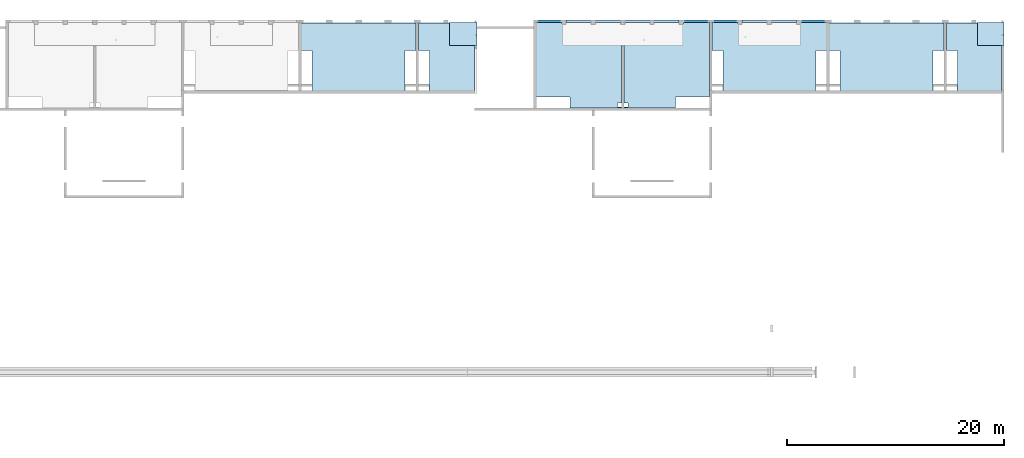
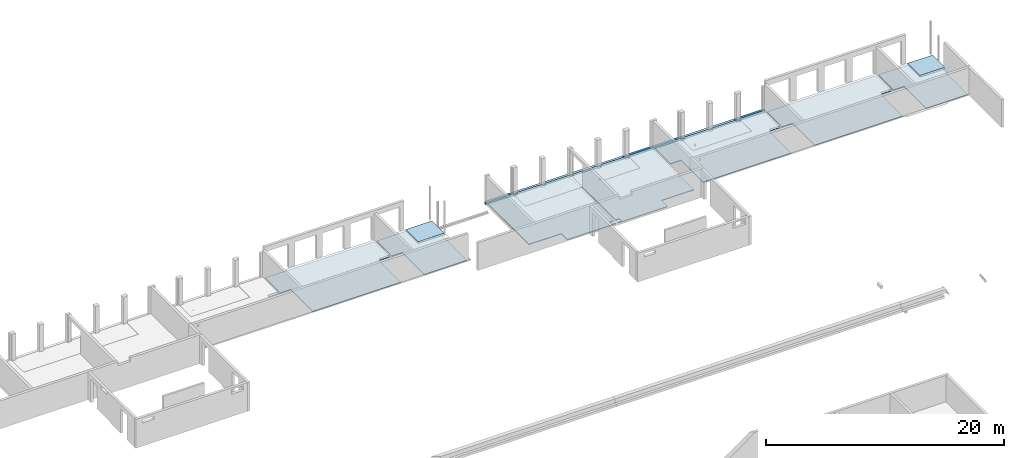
# One storey, part 13 of 22: 14 slabs, 3 openings.
"""IFC2X3 building model written with IfcOpenShell, lengths in millimetres."""

from ifc_helpers import new_model, entity, si_unit, converted_unit, derived_unit, direction, frame, frame_2d, origin, origin_2d_with_axis, place, context, subcontext, project, spatial, polyline, rectangle, circle, outline, extrude, material, layer, layer_set, layer_usage, element, save


model = new_model("IFC2X3")

# Units and contexts
model_context = context("Model", 3, precision=0.01, world=origin(), true_north=direction((6.12303176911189e-17, 1.0)))
body_context = subcontext(model_context, "Body", "Model", "MODEL_VIEW")
ifc_project = project(units=[si_unit("LENGTHUNIT", "METRE", prefix="MILLI"), si_unit("AREAUNIT", "SQUARE_METRE"), si_unit("VOLUMEUNIT", "CUBIC_METRE"), converted_unit("PLANEANGLEUNIT", "DEGREE", entity("IfcRatioMeasure", 0.0174532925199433), si_unit("PLANEANGLEUNIT", "RADIAN"), dimensions=[0, 0, 0, 0, 0, 0, 0]), si_unit("MASSUNIT", "GRAM", prefix="KILO"), derived_unit("MASSDENSITYUNIT", [(si_unit("MASSUNIT", "GRAM", prefix="KILO"), 1), (si_unit("LENGTHUNIT", "METRE"), -3)]), si_unit("TIMEUNIT", "SECOND"), si_unit("FREQUENCYUNIT", "HERTZ"), si_unit("THERMODYNAMICTEMPERATUREUNIT", "DEGREE_CELSIUS"), derived_unit("THERMALTRANSMITTANCEUNIT", [(si_unit("MASSUNIT", "GRAM", prefix="KILO"), 1), (si_unit("THERMODYNAMICTEMPERATUREUNIT", "KELVIN"), -1), (si_unit("TIMEUNIT", "SECOND"), -3)]), derived_unit("VOLUMETRICFLOWRATEUNIT", [(si_unit("LENGTHUNIT", "METRE"), 3), (si_unit("TIMEUNIT", "SECOND"), -1)]), si_unit("ELECTRICCURRENTUNIT", "AMPERE"), si_unit("ELECTRICVOLTAGEUNIT", "VOLT"), si_unit("POWERUNIT", "WATT"), si_unit("FORCEUNIT", "NEWTON", prefix="KILO"), si_unit("ILLUMINANCEUNIT", "LUX"), si_unit("LUMINOUSFLUXUNIT", "LUMEN"), si_unit("LUMINOUSINTENSITYUNIT", "CANDELA"), derived_unit("USERDEFINED", [(si_unit("MASSUNIT", "GRAM", prefix="KILO"), -1), (si_unit("LENGTHUNIT", "METRE"), -2), (si_unit("TIMEUNIT", "SECOND"), 3), (si_unit("LUMINOUSFLUXUNIT", "LUMEN"), 1)]), derived_unit("LINEARVELOCITYUNIT", [(si_unit("LENGTHUNIT", "METRE"), 1), (si_unit("TIMEUNIT", "SECOND"), -1)]), si_unit("PRESSUREUNIT", "PASCAL"), derived_unit("USERDEFINED", [(si_unit("LENGTHUNIT", "METRE"), -2), (si_unit("MASSUNIT", "GRAM", prefix="KILO"), 1), (si_unit("TIMEUNIT", "SECOND"), -2)])], contexts=[model_context])

# Site, building, storey
site_placement = place(None, origin())
site = spatial("IfcSite", under=ifc_project, at=site_placement, Name="Default", CompositionType="ELEMENT")
building_placement = place(site_placement, origin())
building = spatial("IfcBuilding", under=site, at=building_placement, Name="niet gebruiken", CompositionType="ELEMENT")
storey_placement = place(building_placement, frame((0.0, 0.0, 9630.0)))
storey = spatial("IfcBuildingStorey", under=building, at=storey_placement, Name="03 derde verdieping", CompositionType="ELEMENT", Elevation=9630.00000000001)

# Slabs
ifc_material_1 = material(Name="NLRS_f2_beton ihwg")
ifc_layer_1 = layer(ifc_material_1, 230.0)
ifc_layer_set_1 = layer_set([ifc_layer_1], Name="Floor:NLRS_23.21_FL_breedplaat d=50/230_schil apart_gen")
ifc_layer_usage_1 = layer_usage(ifc_layer_set_1, "AXIS3", "POSITIVE", 0.0)
slab_1_placement = place(storey_placement, frame((121745.0, 50926.0, -340.0)))
element("IfcSlab", 1, at=slab_1_placement, inside=storey, material=ifc_layer_usage_1, Name="Floor:NLRS_23.21_FL_breedplaat d=50/230_schil apart_gen", ObjectType="Floor:NLRS_23.21_FL_breedplaat d=50/230_schil apart_gen", PredefinedType="FLOOR", context=body_context, shape_type="SweptSolid", body=[
    extrude(rectangle(XDim=2079.99999999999, YDim=2455.00000000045, at=frame_2d((0.0, 0.0), x_axis=(0.0, 1.0))), frame((1227.50000000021, 1040.0, 230.0), z_axis=(0.0, 0.0, -1.0), x_axis=(-1.0, 0.0, 0.0)), (0.0, 0.0, 1.0), 230.0),
])
ifc_layer_usage_2 = layer_usage(ifc_layer_set_1, "AXIS3", "POSITIVE", 0.0)
slab_2_placement = place(storey_placement, frame((73145.0, 50926.0, -340.0)))
element("IfcSlab", 2, at=slab_2_placement, inside=storey, material=ifc_layer_usage_2, Name="Floor:NLRS_23.21_FL_breedplaat d=50/230_schil apart_gen", ObjectType="Floor:NLRS_23.21_FL_breedplaat d=50/230_schil apart_gen", PredefinedType="FLOOR", context=body_context, shape_type="SweptSolid", body=[
    extrude(rectangle(XDim=2080.00000000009, YDim=2555.00000000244, at=frame_2d((0.0, 0.0), x_axis=(0.0, 1.0))), frame((1277.50000000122, 1040.0, 230.0), z_axis=(0.0, 0.0, -1.0), x_axis=(-1.0, 0.0, 0.0)), (0.0, 0.0, 1.0), 230.0),
])
ifc_layer_2 = layer(ifc_material_1, 230.0)
ifc_layer_set_2 = layer_set([ifc_layer_2], Name="Floor:NLRS_23.21_FL_beton ihwg d=230_gen")
ifc_layer_usage_3 = layer_usage(ifc_layer_set_2, "AXIS3", "POSITIVE", 0.0)
slab_3_placement = place(storey_placement, frame((83905.0, 53006.0, -340.0)))
element("IfcSlab", 3, at=slab_3_placement, inside=storey, material=ifc_layer_usage_3, Name="Floor:NLRS_23.21_FL_beton ihwg d=230_gen", ObjectType="Floor:NLRS_23.21_FL_beton ihwg d=230_gen", PredefinedType="FLOOR", context=body_context, shape_type="SweptSolid", body=[
    extrude(rectangle(XDim=10390.0, YDim=250.000000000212, at=frame_2d((5400.0, 0.0), x_axis=(1.0, 0.0))), frame((10595.0, 125.0, 230.0), z_axis=(0.0, 0.0, -1.0), x_axis=(-1.0, 0.0, 0.0)), (0.0, 0.0, 1.0), 230.0),
])
slab_4_placement = place(storey_placement, frame((83905.0, 53006.0, -340.0)))
element("IfcSlab", 4, at=slab_4_placement, inside=storey, material=ifc_layer_usage_3, Name="Floor:NLRS_23.21_FL_beton ihwg d=230_gen:2", ObjectType="Floor:NLRS_23.21_FL_beton ihwg d=230_gen", PredefinedType="FLOOR", context=body_context, shape_type="SweptSolid", body=[
    extrude(rectangle(XDim=4990.00000000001, YDim=249.99999999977, at=frame_2d((-8100.0, 0.0), x_axis=(1.0, 0.0))), frame((10595.0, 125.0, 230.0), z_axis=(0.0, 0.0, -1.0), x_axis=(-1.0, 0.0, 0.0)), (0.0, 0.0, 1.0), 230.0),
])
ifc_layer_3 = layer(ifc_material_1, 250.0)
ifc_layer_set_3 = layer_set([ifc_layer_3], Name="Floor:NLRS_23.21_FL_breedplaat d=70/250_schil apart_gen")
ifc_layer_usage_4 = layer_usage(ifc_layer_set_3, "AXIS3", "POSITIVE", 0.0)
slab_5_placement = place(storey_placement, frame((80900.0, 53006.0, -340.0)))
element("IfcSlab", 5, at=slab_5_placement, inside=storey, material=ifc_layer_usage_4, Name="Floor:NLRS_23.21_FL_breedplaat d=70/250_schil apart_gen", ObjectType="Floor:NLRS_23.21_FL_breedplaat d=70/250_schil apart_gen", PredefinedType="FLOOR", context=body_context, shape_type="SweptSolid", body=[
    extrude(rectangle(XDim=2884.99999999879, YDim=250.000000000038, at=frame_2d((-12097.5, 0.0), x_axis=(-1.0, 0.0))), frame((13540.0, 125.0, 250.0), z_axis=(0.0, 0.0, -1.0), x_axis=(-1.0, 0.0, 0.0)), (0.0, 0.0, 1.0), 250.000000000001),
])
slab_6_placement = place(storey_placement, frame((80900.0, 53006.0, -340.0)))
element("IfcSlab", 6, at=slab_6_placement, inside=storey, material=ifc_layer_usage_4, Name="Floor:NLRS_23.21_FL_breedplaat d=70/250_schil apart_gen:2", ObjectType="Floor:NLRS_23.21_FL_breedplaat d=70/250_schil apart_gen", PredefinedType="FLOOR", context=body_context, shape_type="SweptSolid", body=[
    extrude(rectangle(XDim=250.00000000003, YDim=3004.99999999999, at=frame_2d((12037.4999999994, 0.0), x_axis=(0.0, 1.0))), frame((13540.0, 125.0, 250.0), z_axis=(0.0, 0.0, -1.0), x_axis=(-1.0, 0.0, 0.0)), (0.0, 0.0, 1.0), 250.000000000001),
])
slab_7_placement = place(storey_placement, frame((80900.0, 53006.0, -340.0)))
element("IfcSlab", 7, at=slab_7_placement, inside=storey, material=ifc_layer_usage_4, Name="Floor:NLRS_23.21_FL_breedplaat d=70/250_schil apart_gen:3", ObjectType="Floor:NLRS_23.21_FL_breedplaat d=70/250_schil apart_gen", PredefinedType="FLOOR", context=body_context, shape_type="SweptSolid", body=[
    extrude(rectangle(XDim=5810.0, YDim=250.000000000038, at=frame_2d((-2760.0, 0.0), x_axis=(1.0, 0.0))), frame((13540.0, 125.0, 250.0), z_axis=(0.0, 0.0, -1.0), x_axis=(-1.0, 0.0, 0.0)), (0.0, 0.0, 1.0), 250.000000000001),
])
ifc_material_2 = material(Name="NLRS_f2_beton prefab")
ifc_layer_4 = layer(ifc_material_2, 70.0)
ifc_layer_set_4 = layer_set([ifc_layer_4], Name="Floor:NLRS_23.21_FL_breedplaatschil d=70_gen")
ifc_layer_usage_5 = layer_usage(ifc_layer_set_4, "AXIS3", "POSITIVE", 0.0)
slab_8_placement = place(storey_placement, origin())
element("IfcSlab", 8, at=slab_8_placement, inside=storey, material=ifc_layer_usage_5, Name="Floor:NLRS_23.21_FL_breedplaatschil d=70_gen", ObjectType="Floor:NLRS_23.21_FL_breedplaatschil d=70_gen", PredefinedType="FLOOR", context=body_context, shape_type="SweptSolid", body=[
    extrude(outline(polyline([(285.0, -5295.0), (2845.0, -5295.0), (2845.0, 5295.0), (285.0, 5295.0), (285.0, 4275.0), (-3415.0, 4275.0), (-3415.0, -4275.0), (285.0, -4275.0), (285.0, -5295.0)])), frame((64800.0, 50141.0, -270.0), z_axis=(0.0, 0.0, -1.0), x_axis=(0.0, 1.0, 0.0)), (0.0, 0.0, 1.0), 70.0000000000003),
])
ifc_layer_usage_6 = layer_usage(ifc_layer_set_4, "AXIS3", "POSITIVE", 0.0)
slab_9_placement = place(storey_placement, origin())
element("IfcSlab", 9, at=slab_9_placement, inside=storey, material=ifc_layer_usage_6, Name="Floor:NLRS_23.21_FL_breedplaatschil d=70_gen", ObjectType="Floor:NLRS_23.21_FL_breedplaatschil d=70_gen", PredefinedType="FLOOR", context=body_context, shape_type="SweptSolid", body=[
    extrude(outline(polyline([(380.0, -2061.66666666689), (2940.0, -2061.66666666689), (2940.0, 3103.33333333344), (-3320.0, 3103.33333333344), (-3320.0, -1041.66666666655), (380.0, -1041.66666666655), (380.0, -2061.66666666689)])), frame((72366.6666666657, 50046.0, -270.0), z_axis=(0.0, 0.0, -1.0), x_axis=(0.0, 1.0, 0.0)), (0.0, 0.0, 1.0), 70.0000000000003),
])
ifc_layer_usage_7 = layer_usage(ifc_layer_set_4, "AXIS3", "POSITIVE", 0.0)
slab_10_placement = place(storey_placement, origin())
element("IfcSlab", 10, at=slab_10_placement, inside=storey, material=ifc_layer_usage_7, Name="Floor:NLRS_23.21_FL_breedplaatschil d=70_gen", ObjectType="Floor:NLRS_23.21_FL_breedplaatschil d=70_gen", PredefinedType="FLOOR", context=body_context, shape_type="SweptSolid", body=[
    extrude(outline(polyline([(285.0, -5295.0), (2845.0, -5295.0), (2845.0, 5295.0), (285.0, 5295.0), (285.0, 4275.0), (-3415.0, 4275.0), (-3415.0, -4275.0), (285.0, -4275.0), (285.0, -5295.0)])), frame((113400.0, 50141.0, -270.0), z_axis=(0.0, 0.0, -1.0), x_axis=(0.0, 1.0, 0.0)), (0.0, 0.0, 1.0), 70.0000000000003),
])
ifc_layer_usage_8 = layer_usage(ifc_layer_set_4, "AXIS3", "POSITIVE", 0.0)
slab_11_placement = place(storey_placement, origin())
element("IfcSlab", 11, at=slab_11_placement, inside=storey, material=ifc_layer_usage_8, Name="Floor:NLRS_23.21_FL_breedplaatschil d=70_gen", ObjectType="Floor:NLRS_23.21_FL_breedplaatschil d=70_gen", PredefinedType="FLOOR", context=body_context, shape_type="SweptSolid", body=[
    extrude(outline(polyline([(380.0, -2028.33333333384), (2940.0, -2028.33333333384), (2940.0, 3036.66666666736), (-3320.0, 3036.66666666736), (-3320.0, -1008.3333333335), (380.0, -1008.3333333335), (380.0, -2028.33333333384)])), frame((120933.333333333, 50046.0, -270.0), z_axis=(0.0, 0.0, -1.0), x_axis=(0.0, 1.0, 0.0)), (0.0, 0.0, 1.0), 70.0000000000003),
])

# Slab, opening
ifc_layer_usage_9 = layer_usage(ifc_layer_set_4, "AXIS3", "POSITIVE", 0.0)
slab_12_placement = place(storey_placement, frame((97305.0, 46726.0, -340.0)))
slab_12 = element("IfcSlab", 12, at=slab_12_placement, inside=storey, material=ifc_layer_usage_9, Name="Floor:NLRS_23.21_FL_breedplaatschil d=70_gen", ObjectType="Floor:NLRS_23.21_FL_breedplaatschil d=70_gen", PredefinedType="FLOOR", context=body_context, shape_type="SweptSolid", body=[
    extrude(outline(polyline([(2885.0, 3150.0), (2885.0, 2990.0), (2515.0, 2990.0), (2515.0, 3150.0), (185.0, 3150.0), (185.0, 2990.0), (-185.0, 2990.0), (-185.0, 3150.0), (-2515.0, 3150.0), (-2515.0, 2990.0), (-2885.0, 2990.0), (-2885.0, 3150.0), (-5295.0, 3150.0), (-5295.0, 550.0), (-4275.0, 550.0), (-4275.0, -3150.0), (4275.0, -3150.0), (4275.0, 550.0), (5295.0, 550.0), (5295.0, 3150.0), (2885.0, 3150.0)])), frame((5295.0, 3150.0, 70.0), z_axis=(0.0, 0.0, -1.0), x_axis=(-1.0, 0.0, 0.0)), (0.0, 0.0, 1.0), 70.0000000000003),
])
opening_1_placement = place(storey_placement, frame((97305.0, 46726.0, -340.0)))
element("IfcOpeningElement", 13, at=opening_1_placement, cuts=slab_12, ObjectType="Opening", context=body_context, shape_type="SweptSolid", body=[
    extrude(circle(Radius=37.5, at=frame_2d((2200.0, 1780.0), x_axis=(1.0, 0.0))), frame((5295.0, 3150.0, 70.0), z_axis=(0.0, 0.0, -1.0), x_axis=(-1.0, 0.0, 0.0)), (0.0, 0.0, 1.0), 70.0000000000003),
])

# Slab
ifc_layer_usage_10 = layer_usage(ifc_layer_set_4, "AXIS3", "POSITIVE", 0.0)
slab_13_placement = place(storey_placement, origin())
element("IfcSlab", 14, at=slab_13_placement, inside=storey, material=ifc_layer_usage_10, Name="Floor:NLRS_23.21_FL_breedplaatschil d=70_gen", ObjectType="Floor:NLRS_23.21_FL_breedplaatschil d=70_gen", PredefinedType="FLOOR", context=body_context, shape_type="SweptSolid", body=[
    extrude(outline(polyline([(-3827.0, -4981.0), (3043.0, -4981.0), (3043.0, -2596.0), (2883.0, -2596.0), (2883.0, -2226.0), (3043.0, -2226.0), (3043.0, 104.0), (2883.0, 104.0), (2883.0, 474.0), (3043.0, 474.0), (3043.0, 2804.0), (2883.0, 2804.0), (2883.0, 2884.0), (-4377.0, 2884.0), (-4377.0, 2514.0), (-4727.0, 2514.0), (-4727.0, 2884.0), (-4847.0, 2884.0), (-4847.0, -1861.0), (-3827.0, -1861.0), (-3827.0, -4981.0)])), frame((86111.0, 49983.0, -270.0), z_axis=(0.0, 0.0, -1.0), x_axis=(0.0, 1.0, 0.0)), (0.0, 0.0, 1.0), 70.0000000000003),
])

# Slab, openings
ifc_layer_usage_11 = layer_usage(ifc_layer_set_4, "AXIS3", "POSITIVE", 0.0)
slab_14_placement = place(storey_placement, frame((89205.0, 45136.0, -340.0)))
slab_14 = element("IfcSlab", 15, at=slab_14_placement, inside=storey, material=ifc_layer_usage_11, Name="Floor:NLRS_23.21_FL_breedplaatschil d=70_gen", ObjectType="Floor:NLRS_23.21_FL_breedplaatschil d=70_gen", PredefinedType="FLOOR", context=body_context, shape_type="SweptSolid", body=[
    extrude(outline(polyline([(-1535.0, 3945.0), (-3945.0, 3945.0), (-3945.0, -2925.0), (-825.0, -2925.0), (-825.0, -3945.0), (3945.0, -3945.0), (3945.0, -3825.0), (3575.0, -3825.0), (3575.0, -3475.0), (3945.0, -3475.0), (3945.0, 3785.0), (3865.0, 3785.0), (3865.0, 3945.0), (1535.0, 3945.0), (1535.0, 3785.0), (1165.0, 3785.0), (1165.0, 3945.0), (-1165.0, 3945.0), (-1165.0, 3785.0), (-1535.0, 3785.0), (-1535.0, 3945.0)])), frame((3945.0, 3945.0, 70.0), z_axis=(0.0, 0.0, -1.0), x_axis=(-1.0, 0.0, 0.0)), (0.0, 0.0, 1.0), 70.0000000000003),
])
opening_2_placement = place(storey_placement, frame((89205.0, 45136.0, -340.0)))
element("IfcOpeningElement", 16, at=opening_2_placement, cuts=slab_14, ObjectType="Opening", context=body_context, shape_type="SweptSolid", body=[
    extrude(circle(Radius=37.5, at=frame_2d((2100.0, 2325.0), x_axis=(1.0, 0.0))), frame((3945.0, 3945.0, 70.0), z_axis=(0.0, 0.0, -1.0), x_axis=(-1.0, 0.0, 0.0)), (0.0, 0.0, 1.0), 70.0000000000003),
])
opening_3_placement = place(slab_14_placement, origin())
element("IfcOpeningElement", 17, at=opening_3_placement, cuts=slab_14, ObjectType="Opening", context=body_context, shape_type="SweptSolid", body=[
    extrude(rectangle(XDim=350.000000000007, YDim=350.000000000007, at=origin_2d_with_axis()), frame((195.0, 295.0, 0.0), z_axis=(0.0, 0.0, 1.0), x_axis=(0.0, -1.0, 0.0)), (0.0, 0.0, 1.0), 249.999999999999),
])

save(model, "model.ifc")
